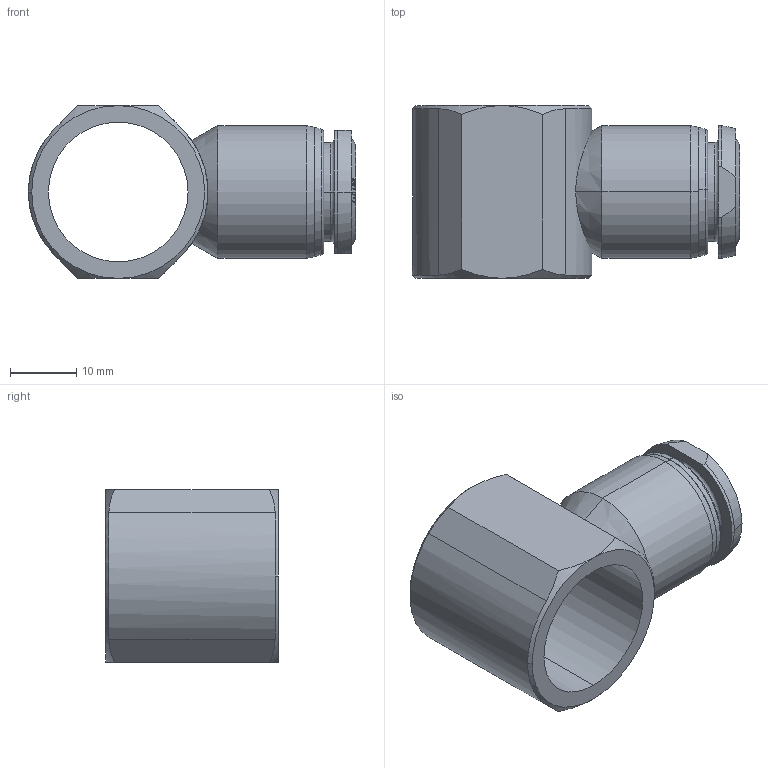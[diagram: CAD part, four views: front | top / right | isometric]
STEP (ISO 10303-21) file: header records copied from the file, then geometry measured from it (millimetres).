
FILE_DESCRIPTION (( 'STEP AP214' ), '1' );
FILE_NAME ('8550000018A.STEP', '2020-05-20T11:34:30', ( 'admin' ), ( '' ), 'SwSTEP 2.0', 'SolidWorks 2016', '' );
FILE_SCHEMA (( 'AUTOMOTIVE_DESIGN' ));
Length unit declared in the file: millimetre
Products named in the file (1): 8550000018A
Bounding box: 49.2 x 26 x 26 mm (x, y, z)
Volume: 9570.5 mm3; surface area: 7019.7 mm2
Topology: 1 solids, 1 shells, 99 faces, 243 edges, 157 vertices
Faces by surface type: bspline 42, cone 25, plane 15, cylinder 13, torus 4
Entity records: 5240 total; most frequent: CARTESIAN_POINT 3150, ORIENTED_EDGE 486, DIRECTION 308, EDGE_CURVE 243, VERTEX_POINT 157, AXIS2_PLACEMENT_3D 115, EDGE_LOOP 112, B_SPLINE_CURVE_WITH_KNOTS 108
